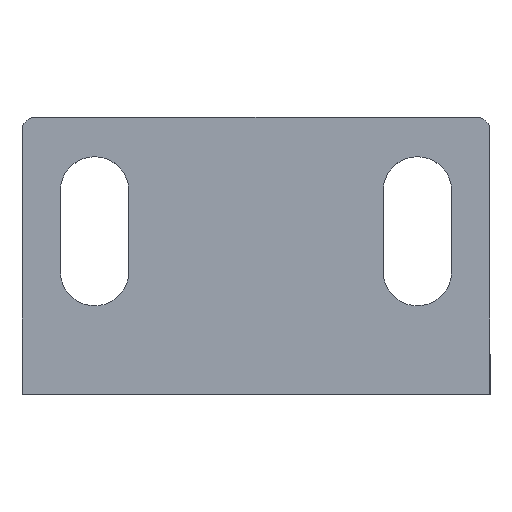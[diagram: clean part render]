
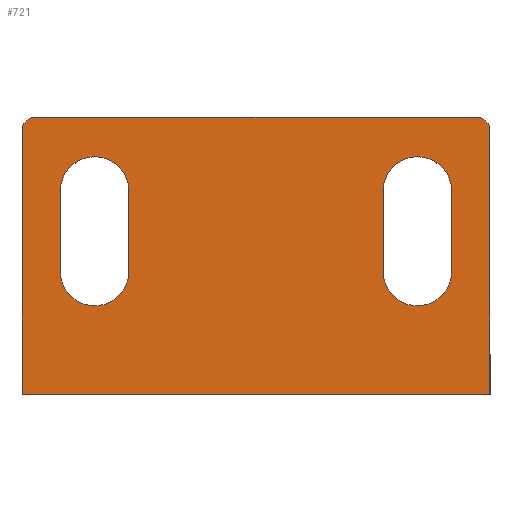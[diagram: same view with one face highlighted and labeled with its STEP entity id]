
A CAD part, top view. The second image highlights one B-rep face of the part: STEP entity #721.
In plain terms, the highlighted planar face has unit normal (0, 0, 1).
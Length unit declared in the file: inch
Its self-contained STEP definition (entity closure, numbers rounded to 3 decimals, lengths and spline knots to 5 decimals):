
#7 = CARTESIAN_POINT ( 'NONE',  ( 0.725, 0.8175, 0.1675 ) ) ;
#14 = CARTESIAN_POINT ( 'NONE',  ( -0.725, 0., 0.1675 ) ) ;
#15 = AXIS2_PLACEMENT_3D ( 'NONE', #309, #1099, #359 ) ;
#32 = ORIENTED_EDGE ( 'NONE', *, *, #640, .T. ) ;
#54 = VERTEX_POINT ( 'NONE', #911 ) ;
#67 = DIRECTION ( 'NONE',  ( -1., 0., 0. ) ) ;
#74 = ORIENTED_EDGE ( 'NONE', *, *, #319, .T. ) ;
#82 = CARTESIAN_POINT ( 'NONE',  ( 0.606, 0.38, 0.1675 ) ) ;
#90 = FACE_BOUND ( 'NONE', #924, .T. ) ;
#109 = ORIENTED_EDGE ( 'NONE', *, *, #800, .T. ) ;
#111 = DIRECTION ( 'NONE',  ( 0., 0., -1. ) ) ;
#133 = VECTOR ( 'NONE', #536, 39.37008 ) ;
#135 = CARTESIAN_POINT ( 'NONE',  ( -0.606, 0.38, 0.1675 ) ) ;
#151 = LINE ( 'NONE', #1064, #350 ) ;
#166 = ORIENTED_EDGE ( 'NONE', *, *, #802, .T. ) ;
#192 = CIRCLE ( 'NONE', #1042, 0.04 ) ;
#214 = DIRECTION ( 'NONE',  ( 0., -1., 0. ) ) ;
#220 = CIRCLE ( 'NONE', #15, 0.106 ) ;
#235 = CARTESIAN_POINT ( 'NONE',  ( 0.394, 0.38, 0.1675 ) ) ;
#241 = VECTOR ( 'NONE', #453, 39.37008 ) ;
#245 = CARTESIAN_POINT ( 'NONE',  ( -0.394, 0.38, 0.1675 ) ) ;
#253 = CIRCLE ( 'NONE', #258, 0.04 ) ;
#258 = AXIS2_PLACEMENT_3D ( 'NONE', #1122, #409, #843 ) ;
#272 = AXIS2_PLACEMENT_3D ( 'NONE', #810, #274, #973 ) ;
#274 = DIRECTION ( 'NONE',  ( 0., 0., -1. ) ) ;
#277 = DIRECTION ( 'NONE',  ( 0., 0., -1. ) ) ;
#301 = FACE_OUTER_BOUND ( 'NONE', #1025, .T. ) ;
#309 = CARTESIAN_POINT ( 'NONE',  ( 0.5, 0.38, 0.1675 ) ) ;
#319 = EDGE_CURVE ( 'NONE', #688, #649, #874, .T. ) ;
#328 = CARTESIAN_POINT ( 'NONE',  ( -0.606, 0.38, 0.1675 ) ) ;
#349 = EDGE_CURVE ( 'NONE', #492, #420, #253, .T. ) ;
#350 = VECTOR ( 'NONE', #374, 39.37008 ) ;
#359 = DIRECTION ( 'NONE',  ( 1., 0., 0. ) ) ;
#374 = DIRECTION ( 'NONE',  ( 0., 1., 0. ) ) ;
#376 = CARTESIAN_POINT ( 'NONE',  ( -0.725, 0.125, 0.1675 ) ) ;
#384 = EDGE_CURVE ( 'NONE', #492, #54, #790, .T. ) ;
#385 = VECTOR ( 'NONE', #596, 39.37008 ) ;
#396 = VECTOR ( 'NONE', #987, 39.37008 ) ;
#402 = LINE ( 'NONE', #328, #385 ) ;
#409 = DIRECTION ( 'NONE',  ( 0., 0., 1. ) ) ;
#420 = VERTEX_POINT ( 'NONE', #437 ) ;
#424 = VERTEX_POINT ( 'NONE', #927 ) ;
#433 = CARTESIAN_POINT ( 'NONE',  ( 0.606, 0.63, 0.1675 ) ) ;
#435 = CARTESIAN_POINT ( 'NONE',  ( -0.725, 0.8575, 0.1675 ) ) ;
#437 = CARTESIAN_POINT ( 'NONE',  ( -0.725, 0.8175, 0.1675 ) ) ;
#453 = DIRECTION ( 'NONE',  ( 0., -1., 0. ) ) ;
#461 = CARTESIAN_POINT ( 'NONE',  ( -0.394, 0.38, 0.1675 ) ) ;
#471 = DIRECTION ( 'NONE',  ( 0., -1., 0. ) ) ;
#473 = CARTESIAN_POINT ( 'NONE',  ( -0.394, 0.63, 0.1675 ) ) ;
#488 = AXIS2_PLACEMENT_3D ( 'NONE', #1134, #277, #895 ) ;
#492 = VERTEX_POINT ( 'NONE', #900 ) ;
#494 = ORIENTED_EDGE ( 'NONE', *, *, #700, .T. ) ;
#517 = ORIENTED_EDGE ( 'NONE', *, *, #811, .T. ) ;
#536 = DIRECTION ( 'NONE',  ( 0., -1., 0. ) ) ;
#547 = CARTESIAN_POINT ( 'NONE',  ( 0.725, 0., 0.1675 ) ) ;
#568 = CARTESIAN_POINT ( 'NONE',  ( -0.606, 0.63, 0.1675 ) ) ;
#579 = VERTEX_POINT ( 'NONE', #245 ) ;
#585 = CARTESIAN_POINT ( 'NONE',  ( 0.606, 0.38, 0.1675 ) ) ;
#588 = ORIENTED_EDGE ( 'NONE', *, *, #692, .T. ) ;
#594 = ORIENTED_EDGE ( 'NONE', *, *, #685, .T. ) ;
#596 = DIRECTION ( 'NONE',  ( 0., 1., 0. ) ) ;
#603 = VERTEX_POINT ( 'NONE', #433 ) ;
#605 = VERTEX_POINT ( 'NONE', #547 ) ;
#639 = EDGE_CURVE ( 'NONE', #985, #605, #794, .T. ) ;
#640 = EDGE_CURVE ( 'NONE', #649, #579, #989, .T. ) ;
#649 = VERTEX_POINT ( 'NONE', #473 ) ;
#677 = EDGE_LOOP ( 'NONE', ( #32, #1131, #494, #74 ) ) ;
#685 = EDGE_CURVE ( 'NONE', #981, #825, #220, .T. ) ;
#688 = VERTEX_POINT ( 'NONE', #568 ) ;
#690 = EDGE_CURVE ( 'NONE', #420, #1024, #1002, .T. ) ;
#692 = EDGE_CURVE ( 'NONE', #603, #981, #751, .T. ) ;
#700 = EDGE_CURVE ( 'NONE', #778, #688, #402, .T. ) ;
#708 = EDGE_CURVE ( 'NONE', #579, #778, #770, .T. ) ;
#720 = ORIENTED_EDGE ( 'NONE', *, *, #868, .T. ) ;
#721 = ADVANCED_FACE ( 'NONE', ( #90, #1062, #301 ), #930, .F. ) ;
#751 = LINE ( 'NONE', #82, #891 ) ;
#761 = ORIENTED_EDGE ( 'NONE', *, *, #384, .F. ) ;
#770 = CIRCLE ( 'NONE', #1119, 0.106 ) ;
#778 = VERTEX_POINT ( 'NONE', #135 ) ;
#779 = CARTESIAN_POINT ( 'NONE',  ( -0.725, 0., 0.1675 ) ) ;
#786 = ORIENTED_EDGE ( 'NONE', *, *, #349, .T. ) ;
#790 = LINE ( 'NONE', #435, #1000 ) ;
#794 = LINE ( 'NONE', #1108, #241 ) ;
#800 = EDGE_CURVE ( 'NONE', #1024, #605, #1130, .T. ) ;
#802 = EDGE_CURVE ( 'NONE', #825, #424, #151, .T. ) ;
#810 = CARTESIAN_POINT ( 'NONE',  ( -0.5, 0.63, 0.1675 ) ) ;
#811 = EDGE_CURVE ( 'NONE', #424, #603, #1093, .T. ) ;
#825 = VERTEX_POINT ( 'NONE', #235 ) ;
#843 = DIRECTION ( 'NONE',  ( -1., 0., 0. ) ) ;
#849 = CARTESIAN_POINT ( 'NONE',  ( 0.685, 0.8175, 0.1675 ) ) ;
#865 = DIRECTION ( 'NONE',  ( 1., 0., 0. ) ) ;
#868 = EDGE_CURVE ( 'NONE', #985, #54, #192, .T. ) ;
#874 = CIRCLE ( 'NONE', #272, 0.106 ) ;
#891 = VECTOR ( 'NONE', #214, 39.37008 ) ;
#895 = DIRECTION ( 'NONE',  ( 1., 0., 0. ) ) ;
#900 = CARTESIAN_POINT ( 'NONE',  ( -0.685, 0.8575, 0.1675 ) ) ;
#911 = CARTESIAN_POINT ( 'NONE',  ( 0.685, 0.8575, 0.1675 ) ) ;
#921 = AXIS2_PLACEMENT_3D ( 'NONE', #376, #111, #67 ) ;
#924 = EDGE_LOOP ( 'NONE', ( #588, #594, #166, #517 ) ) ;
#927 = CARTESIAN_POINT ( 'NONE',  ( 0.394, 0.63, 0.1675 ) ) ;
#930 = PLANE ( 'NONE',  #921 ) ;
#934 = CARTESIAN_POINT ( 'NONE',  ( -0.5, 0.38, 0.1675 ) ) ;
#973 = DIRECTION ( 'NONE',  ( -1., 0., 0. ) ) ;
#981 = VERTEX_POINT ( 'NONE', #585 ) ;
#985 = VERTEX_POINT ( 'NONE', #7 ) ;
#987 = DIRECTION ( 'NONE',  ( 1., 0., 0. ) ) ;
#989 = LINE ( 'NONE', #461, #1091 ) ;
#1000 = VECTOR ( 'NONE', #865, 39.37008 ) ;
#1002 = LINE ( 'NONE', #1141, #133 ) ;
#1024 = VERTEX_POINT ( 'NONE', #14 ) ;
#1025 = EDGE_LOOP ( 'NONE', ( #1117, #720, #761, #786, #1066, #109 ) ) ;
#1026 = DIRECTION ( 'NONE',  ( -1., 0., 0. ) ) ;
#1042 = AXIS2_PLACEMENT_3D ( 'NONE', #849, #1056, #1142 ) ;
#1056 = DIRECTION ( 'NONE',  ( 0., 0., 1. ) ) ;
#1057 = DIRECTION ( 'NONE',  ( 0., 0., -1. ) ) ;
#1062 = FACE_BOUND ( 'NONE', #677, .T. ) ;
#1064 = CARTESIAN_POINT ( 'NONE',  ( 0.394, 0.38, 0.1675 ) ) ;
#1066 = ORIENTED_EDGE ( 'NONE', *, *, #690, .T. ) ;
#1091 = VECTOR ( 'NONE', #471, 39.37008 ) ;
#1093 = CIRCLE ( 'NONE', #488, 0.106 ) ;
#1099 = DIRECTION ( 'NONE',  ( 0., 0., -1. ) ) ;
#1108 = CARTESIAN_POINT ( 'NONE',  ( 0.725, 0.125, 0.1675 ) ) ;
#1117 = ORIENTED_EDGE ( 'NONE', *, *, #639, .F. ) ;
#1119 = AXIS2_PLACEMENT_3D ( 'NONE', #934, #1057, #1026 ) ;
#1122 = CARTESIAN_POINT ( 'NONE',  ( -0.685, 0.8175, 0.1675 ) ) ;
#1130 = LINE ( 'NONE', #779, #396 ) ;
#1131 = ORIENTED_EDGE ( 'NONE', *, *, #708, .T. ) ;
#1134 = CARTESIAN_POINT ( 'NONE',  ( 0.5, 0.63, 0.1675 ) ) ;
#1141 = CARTESIAN_POINT ( 'NONE',  ( -0.725, 0.125, 0.1675 ) ) ;
#1142 = DIRECTION ( 'NONE',  ( -1., 0., 0. ) ) ;
